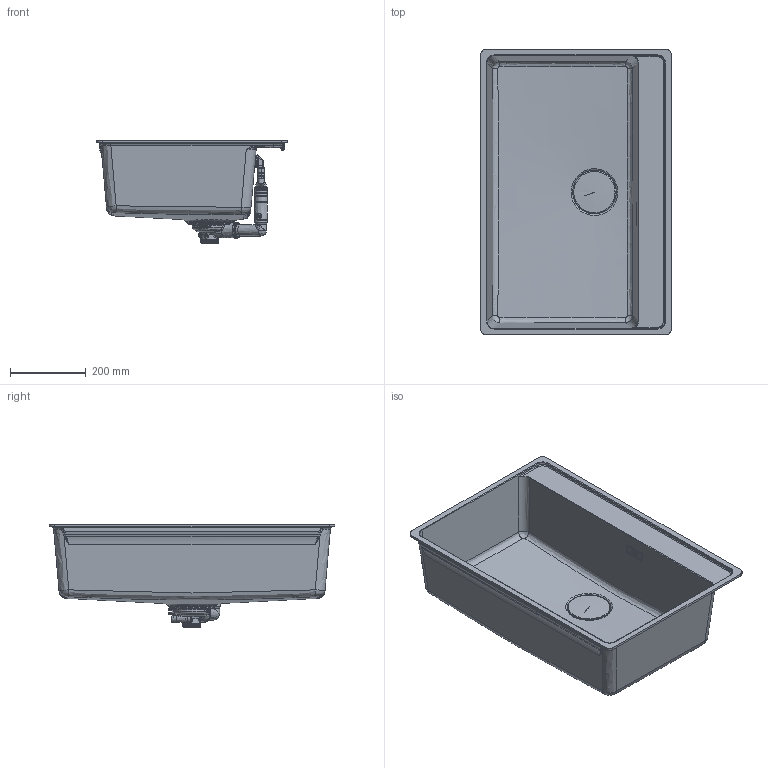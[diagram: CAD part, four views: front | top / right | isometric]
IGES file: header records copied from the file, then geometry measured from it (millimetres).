
Global section: file name: MRG 210-72 TL; native system: Autodesk Inventor 2021; preprocessor: unknown; date: 20210929.152158; units: millimetre
Bounding box: 503 x 753 x 271.19 mm (x, y, z)
Volume: 5694255.4 mm3; surface area: 1702659 mm2
Topology: 20 solids, 21 shells, 5101 faces, 13674 edges, 8802 vertices
Faces by surface type: bspline 5101
